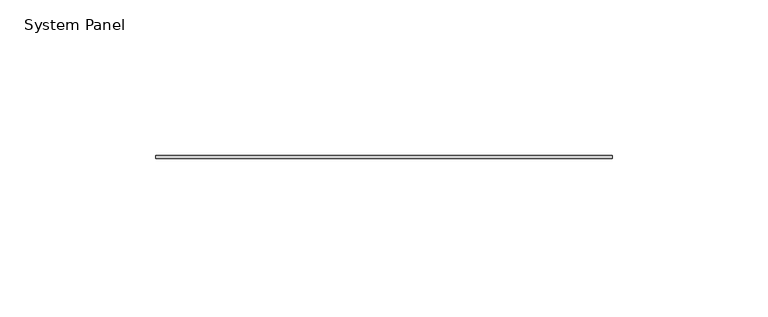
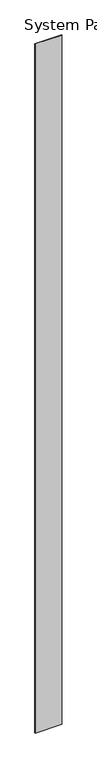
"""IFC4 building model written with IfcOpenShell, lengths in millimetres: plate geometry, System Panel : Stratco_Hiland_Tray."""

from ifc_helpers import new_model, si_unit, origin, origin_with_axes, place, context, project, spatial, polyline, outline, extrude, source, transform, mapped, element, save


def system_panel_6cd964a3(model_context):
    return source(origin(), model_context, "Body", "SweptSolid", [
        extrude(outline(polyline([(73.1834018, 2.5), (-73.1834018, 2.5), (-73.1834018, 3.5), (73.1834018, 3.5), (73.1834018, 2.5)])), origin_with_axes(), (0.0, 0.0, 1.0), 4000.0),
    ])


if __name__ == "__main__":
    model = new_model("IFC4")
    model_context = context("Model", 3, world=origin())
    ifc_project = project(units=[si_unit("LENGTHUNIT", "METRE", prefix="MILLI")], contexts=[model_context])
    site = spatial("IfcSite", under=ifc_project)
    building = spatial("IfcBuilding", under=site)
    placement = place(None, origin())
    system_panel_shape = system_panel_6cd964a3(model_context)
    element("IfcPlate", 1, ObjectType="System Panel : Stratco_Hiland_Tray", at=placement, inside=building, context=model_context, shape_type="MappedRepresentation", body=[
        mapped(system_panel_shape, transform((0.0, 0.0, 0.0), x_axis=(1.0, 0.0, 0.0), y_axis=(0.0, 1.0, 0.0), z_axis=(0.0, 0.0, 1.0))),
    ])
    save(model, "model.ifc")
